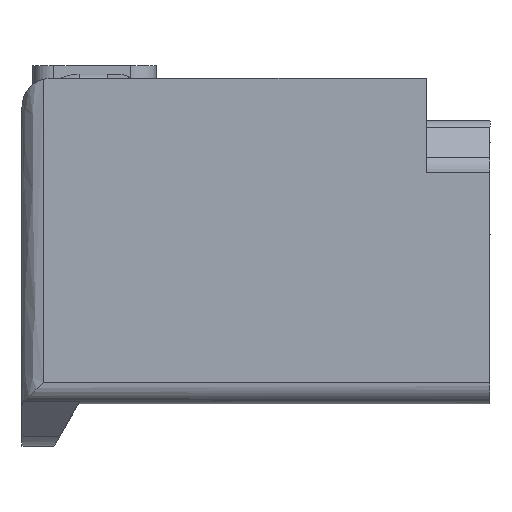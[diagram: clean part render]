
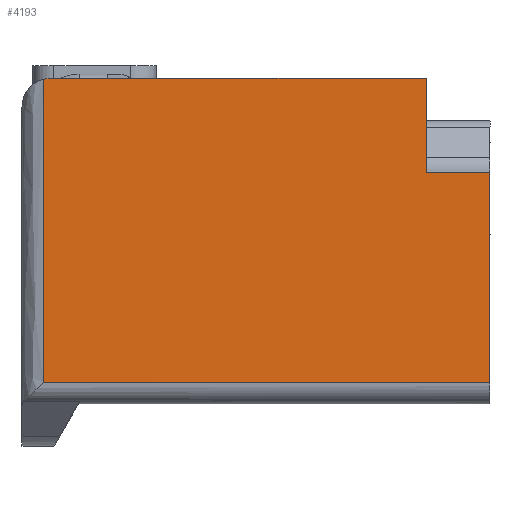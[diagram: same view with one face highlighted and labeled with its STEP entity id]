
A CAD part, front view. The second image highlights one B-rep face of the part: STEP entity #4193.
In plain terms, the highlighted planar face has unit normal (0, -1, 0).
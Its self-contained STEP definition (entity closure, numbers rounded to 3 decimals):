
#1838=CARTESIAN_POINT('Line Origine',(-3.,-3.4,2.593)) ;
#1842=CARTESIAN_POINT('Vertex',(-3.,-3.4,4.8)) ;
#1844=CARTESIAN_POINT('Vertex',(-3.,-3.4,0.386)) ;
#1917=CARTESIAN_POINT('Line Origine',(-11.,-3.4,0.386)) ;
#1921=CARTESIAN_POINT('Vertex',(0.,-3.4,0.386)) ;
#2075=CARTESIAN_POINT('Line Origine',(0.,-3.4,-4.557)) ;
#2079=CARTESIAN_POINT('Vertex',(0.,-3.4,-9.5)) ;
#2998=CARTESIAN_POINT('Line Origine',(-11.61,-3.4,-9.5)) ;
#3002=CARTESIAN_POINT('Vertex',(-21.,-3.4,-9.5)) ;
#4160=CARTESIAN_POINT('Axis2P3D Location',(0.,-3.4,0.8)) ;
#4165=CARTESIAN_POINT('Axis2P3D Location',(-20.65,-3.4,3.45)) ;
#4169=CARTESIAN_POINT('Vertex',(-21.,-3.4,4.754)) ;
#4171=CARTESIAN_POINT('Vertex',(-20.65,-3.4,4.8)) ;
#4174=CARTESIAN_POINT('Line Origine',(-21.,-3.4,-2.373)) ;
#4179=CARTESIAN_POINT('Line Origine',(-11.825,-3.4,4.8)) ;
#1839=DIRECTION('Vector Direction',(0.,0.,-1.)) ;
#1918=DIRECTION('Vector Direction',(-1.,0.,0.)) ;
#2076=DIRECTION('Vector Direction',(0.,0.,-1.)) ;
#2999=DIRECTION('Vector Direction',(1.,0.,0.)) ;
#4161=DIRECTION('Axis2P3D Direction',(0.,1.,0.)) ;
#4162=DIRECTION('Axis2P3D XDirection',(0.,0.,-1.)) ;
#4166=DIRECTION('Axis2P3D Direction',(0.,1.,0.)) ;
#4175=DIRECTION('Vector Direction',(0.,0.,1.)) ;
#4180=DIRECTION('Vector Direction',(1.,0.,0.)) ;
#4163=AXIS2_PLACEMENT_3D('Plane Axis2P3D',#4160,#4161,#4162) ;
#4167=AXIS2_PLACEMENT_3D('Circle Axis2P3D',#4165,#4166,$) ;
#4185=ORIENTED_EDGE('',*,*,#4173,.F.) ;
#4186=ORIENTED_EDGE('',*,*,#4178,.T.) ;
#4187=ORIENTED_EDGE('',*,*,#3004,.F.) ;
#4188=ORIENTED_EDGE('',*,*,#2081,.F.) ;
#4189=ORIENTED_EDGE('',*,*,#1923,.T.) ;
#4190=ORIENTED_EDGE('',*,*,#1846,.F.) ;
#4191=ORIENTED_EDGE('',*,*,#4183,.F.) ;
#1840=VECTOR('Line Direction',#1839,1.) ;
#1919=VECTOR('Line Direction',#1918,1.) ;
#2077=VECTOR('Line Direction',#2076,1.) ;
#3000=VECTOR('Line Direction',#2999,1.) ;
#4176=VECTOR('Line Direction',#4175,1.) ;
#4181=VECTOR('Line Direction',#4180,1.) ;
#4193=ADVANCED_FACE('\X2\FF8AFF9FFF70FF82\X0\ \X2\FF8EFF9EFF83FF9EFF68FF70\X0\',(#4192),#4164,.F.) ;
#4168=CIRCLE('generated circle',#4167,1.35) ;
#1846=EDGE_CURVE('',#1843,#1845,#1841,.T.) ;
#1923=EDGE_CURVE('',#1922,#1845,#1920,.T.) ;
#2081=EDGE_CURVE('',#1922,#2080,#2078,.T.) ;
#3004=EDGE_CURVE('',#2080,#3003,#3001,.F.) ;
#4173=EDGE_CURVE('',#4170,#4172,#4168,.T.) ;
#4178=EDGE_CURVE('',#4170,#3003,#4177,.F.) ;
#4183=EDGE_CURVE('',#4172,#1843,#4182,.T.) ;
#4184=EDGE_LOOP('',(#4185,#4186,#4187,#4188,#4189,#4190,#4191)) ;
#4192=FACE_OUTER_BOUND('',#4184,.T.) ;
#1841=LINE('Line',#1838,#1840) ;
#1920=LINE('Line',#1917,#1919) ;
#2078=LINE('Line',#2075,#2077) ;
#3001=LINE('Line',#2998,#3000) ;
#4177=LINE('Line',#4174,#4176) ;
#4182=LINE('Line',#4179,#4181) ;
#4164=PLANE('',#4163) ;
#1843=VERTEX_POINT('',#1842) ;
#1845=VERTEX_POINT('',#1844) ;
#1922=VERTEX_POINT('',#1921) ;
#2080=VERTEX_POINT('',#2079) ;
#3003=VERTEX_POINT('',#3002) ;
#4170=VERTEX_POINT('',#4169) ;
#4172=VERTEX_POINT('',#4171) ;
